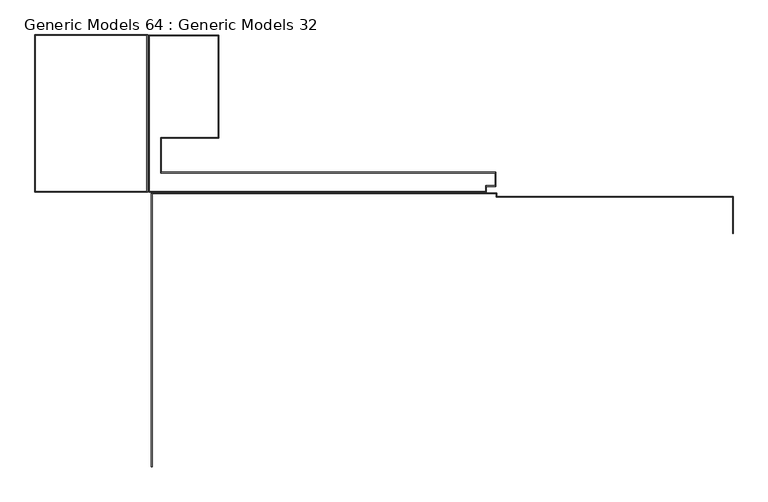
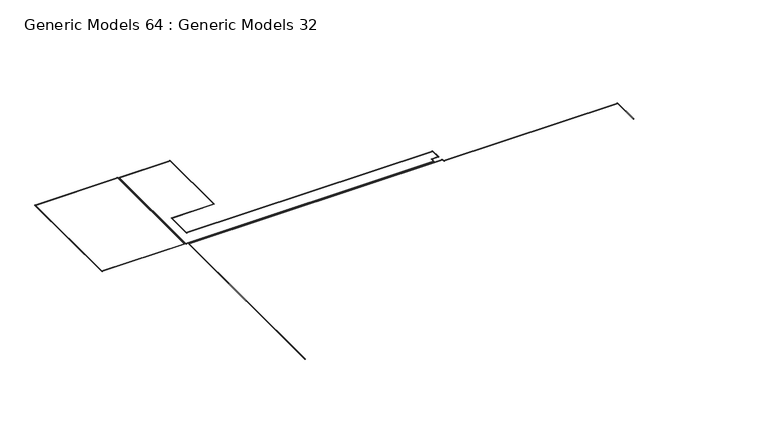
"""IFC4 building model written with IfcOpenShell, lengths in millimetres: proxy geometry, Generic Models 64 : Generic Models 32."""

from ifc_helpers import new_model, si_unit, frame, origin, place, context, project, spatial, circle_curve, ellipse_curve, source, transform, mapped, element, save
from ifc_brep_helpers import plane_surface, cylinder_surface, advanced_brep


def generic_models_64_generic_models_32_c3ba978d(model_context):
    return source(origin(), model_context, "Body", "AdvancedBrep", [
        advanced_brep(
        [(-152733.6902477, 36290.969902, 44270.0), (-152813.6902477, 36370.969902, 44270.0), (-152813.6902477, 12043.2777512, 44270.0), (-152733.6902477, 12123.2777512, 44270.0), (-135382.9372768, 12043.2777512, 44270.0), (-135462.9372768, 12123.2777512, 44270.0), (-135462.9372768, 36290.969902, 44270.0), (-135382.9372768, 36370.969902, 44270.0)],
        [
            (0, 1, ellipse_curve(frame((-152773.6902477, 36330.969902, 44270.0), z_axis=(-0.7071067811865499, -0.707106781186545, 0.0), x_axis=(-0.7071067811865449, 0.7071067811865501, 0.0)), 56.5685425, 40.0)),
            (1, 2),
            (2, 3, ellipse_curve(frame((-152773.6902477, 12083.2777512, 44270.0), z_axis=(-0.7071067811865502, 0.7071067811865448, 0.0), x_axis=(0.7071067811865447, 0.7071067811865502, 0.0)), 56.5685425, 40.0)),
            (3, 0),
            (1, 0, ellipse_curve(frame((-152773.6902477, 36330.969902, 44270.0), z_axis=(-0.7071067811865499, -0.707106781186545, 0.0), x_axis=(-0.7071067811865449, 0.7071067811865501, 0.0)), 56.5685425, 40.0)),
            (3, 2, ellipse_curve(frame((-152773.6902477, 12083.2777512, 44270.0), z_axis=(-0.7071067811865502, 0.7071067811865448, 0.0), x_axis=(0.7071067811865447, 0.7071067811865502, 0.0)), 56.5685425, 40.0)),
            (2, 4),
            (4, 5, ellipse_curve(frame((-135422.9372768, 12083.2777512, 44270.0), z_axis=(-0.7071067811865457, -0.7071067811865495, 0.0), x_axis=(-0.7071067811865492, 0.7071067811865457, 0.0)), 56.5685425, 40.0)),
            (5, 3),
            (5, 4, ellipse_curve(frame((-135422.9372768, 12083.2777512, 44270.0), z_axis=(-0.7071067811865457, -0.7071067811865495, 0.0), x_axis=(-0.7071067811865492, 0.7071067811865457, 0.0)), 56.5685425, 40.0)),
            (5, 6),
            (6, 7, ellipse_curve(frame((-135422.9372768, 36330.969902, 44270.0), z_axis=(0.7071067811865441, -0.7071067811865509, 0.0), x_axis=(-0.7071067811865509, -0.707106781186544, 0.0)), 56.5685425, 40.0)),
            (7, 4),
            (7, 6, ellipse_curve(frame((-135422.9372768, 36330.969902, 44270.0), z_axis=(0.7071067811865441, -0.7071067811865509, 0.0), x_axis=(-0.7071067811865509, -0.707106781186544, 0.0)), 56.5685425, 40.0)),
            (6, 0),
            (1, 7),
        ],
        [
            cylinder_surface(frame((-152773.6902477, 36405.969902, 44270.0), z_axis=(0.0, 1.0, 0.0), x_axis=(-1.0, 0.0, 0.0)), 40.0),
            cylinder_surface(frame((-152848.6902477, 12083.2777512, 44270.0), z_axis=(-1.0, 0.0, 0.0), x_axis=(0.0, -1.0, 0.0)), 40.0),
            cylinder_surface(frame((-135422.9372768, 12008.2777512, 44270.0), z_axis=(0.0, -1.0, 0.0), x_axis=(1.0, 0.0, 0.0)), 40.0),
            cylinder_surface(frame((-135347.9372768, 36330.969902, 44270.0), z_axis=(1.0, 0.0, 0.0), x_axis=(0.0, 1.0, 0.0)), 40.0),
        ],
        [
            (0, [[1, 2, 3, 4]]),
            (0, [[5, -4, 6, -2]]),
            (1, [[-3, 7, 8, 9]]),
            (1, [[-6, -9, 10, -7]]),
            (2, [[-10, 11, 12, 13]]),
            (2, [[-8, -13, 14, -11]]),
            (3, [[-12, 15, -5, 16]]),
            (3, [[-14, -16, -1, -15]]),
        ],
    ),
        advanced_brep(
        [(-135132.9372768, 36240.969902, 44270.0), (-135212.9372768, 36320.969902, 44270.0), (-135212.9372768, 12043.2777512, 44270.0), (-135132.9372768, 12123.2777512, 44270.0), (-82952.3577908, 12043.2777512, 44270.0), (-83032.3577908, 12123.2777512, 44270.0), (-83032.3577908, 12984.2777512, 44270.0), (-82952.3577908, 12904.2777512, 44270.0), (-81562.9372768, 12984.2777512, 44270.0), (-81482.9372768, 12904.2777512, 44270.0), (-81562.9372768, 14992.4703267, 44270.0), (-81482.9372768, 15072.4703267, 44270.0), (-133362.9372768, 14992.4703267, 44270.0), (-133282.9372768, 15072.4703267, 44270.0), (-133362.9372768, 20422.4925063, 44270.0), (-133282.9372768, 20342.4925063, 44270.0), (-124462.9372768, 20422.4925063, 44270.0), (-124382.9372768, 20342.4925063, 44270.0), (-124462.9372768, 36240.969902, 44270.0), (-124382.9372768, 36320.969902, 44270.0)],
        [
            (0, 1, ellipse_curve(frame((-135172.9372768, 36280.969902, 44270.0), z_axis=(-0.7071067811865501, -0.7071067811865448, 0.0), x_axis=(-0.7071067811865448, 0.7071067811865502, 0.0)), 56.5685425, 40.0)),
            (1, 2),
            (2, 3, ellipse_curve(frame((-135172.9372768, 12083.2777512, 44270.0), z_axis=(-0.70710678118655, 0.7071067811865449, 0.0), x_axis=(0.7071067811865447, 0.7071067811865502, 0.0)), 56.5685425, 40.0)),
            (3, 0),
            (1, 0, ellipse_curve(frame((-135172.9372768, 36280.969902, 44270.0), z_axis=(-0.7071067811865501, -0.7071067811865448, 0.0), x_axis=(-0.7071067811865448, 0.7071067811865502, 0.0)), 56.5685425, 40.0)),
            (3, 2, ellipse_curve(frame((-135172.9372768, 12083.2777512, 44270.0), z_axis=(-0.70710678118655, 0.7071067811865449, 0.0), x_axis=(0.7071067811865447, 0.7071067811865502, 0.0)), 56.5685425, 40.0)),
            (2, 4),
            (4, 5, ellipse_curve(frame((-82992.3577908, 12083.2777512, 44270.0), z_axis=(-0.7071067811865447, -0.7071067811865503, 0.0), x_axis=(-0.7071067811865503, 0.7071067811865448, 0.0)), 56.5685425, 40.0)),
            (5, 3),
            (5, 4, ellipse_curve(frame((-82992.3577908, 12083.2777512, 44270.0), z_axis=(-0.7071067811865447, -0.7071067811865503, 0.0), x_axis=(-0.7071067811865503, 0.7071067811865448, 0.0)), 56.5685425, 40.0)),
            (5, 6),
            (6, 7, ellipse_curve(frame((-82992.3577908, 12944.2777512, 44270.0), z_axis=(-0.7071067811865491, -0.707106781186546, 0.0), x_axis=(0.707106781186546, -0.7071067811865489, 0.0)), 56.5685425, 40.0)),
            (7, 4),
            (7, 6, ellipse_curve(frame((-82992.3577908, 12944.2777512, 44270.0), z_axis=(-0.7071067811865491, -0.707106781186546, 0.0), x_axis=(0.707106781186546, -0.7071067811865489, 0.0)), 56.5685425, 40.0)),
            (6, 8),
            (8, 9, ellipse_curve(frame((-81522.9372768, 12944.2777512, 44270.0), z_axis=(-0.7071067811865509, -0.7071067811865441, 0.0), x_axis=(-0.7071067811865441, 0.7071067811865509, 0.0)), 56.5685425, 40.0)),
            (9, 7),
            (9, 8, ellipse_curve(frame((-81522.9372768, 12944.2777512, 44270.0), z_axis=(-0.7071067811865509, -0.7071067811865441, 0.0), x_axis=(-0.7071067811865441, 0.7071067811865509, 0.0)), 56.5685425, 40.0)),
            (8, 10),
            (10, 11, ellipse_curve(frame((-81522.9372768, 15032.4703267, 44270.0), z_axis=(0.7071067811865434, -0.7071067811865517, 0.0), x_axis=(-0.7071067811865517, -0.7071067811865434, 0.0)), 56.5685425, 40.0)),
            (11, 9),
            (11, 10, ellipse_curve(frame((-81522.9372768, 15032.4703267, 44270.0), z_axis=(0.7071067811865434, -0.7071067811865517, 0.0), x_axis=(-0.7071067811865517, -0.7071067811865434, 0.0)), 56.5685425, 40.0)),
            (10, 12),
            (12, 13, ellipse_curve(frame((-133322.9372768, 15032.4703267, 44270.0), z_axis=(0.7071067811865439, -0.7071067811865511, 0.0), x_axis=(0.7071067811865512, 0.7071067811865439, 0.0)), 56.5685425, 40.0)),
            (13, 11),
            (13, 12, ellipse_curve(frame((-133322.9372768, 15032.4703267, 44270.0), z_axis=(0.7071067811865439, -0.7071067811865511, 0.0), x_axis=(0.7071067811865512, 0.7071067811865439, 0.0)), 56.5685425, 40.0)),
            (12, 14),
            (14, 15, ellipse_curve(frame((-133322.9372768, 20382.4925063, 44270.0), z_axis=(-0.7071067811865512, -0.7071067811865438, 0.0), x_axis=(0.7071067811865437, -0.7071067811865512, 0.0)), 56.5685425, 40.0)),
            (15, 13),
            (15, 14, ellipse_curve(frame((-133322.9372768, 20382.4925063, 44270.0), z_axis=(-0.7071067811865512, -0.7071067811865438, 0.0), x_axis=(0.7071067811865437, -0.7071067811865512, 0.0)), 56.5685425, 40.0)),
            (14, 16),
            (16, 17, ellipse_curve(frame((-124422.9372768, 20382.4925063, 44270.0), z_axis=(-0.7071067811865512, -0.7071067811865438, 0.0), x_axis=(-0.7071067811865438, 0.7071067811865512, 0.0)), 56.5685425, 40.0)),
            (17, 15),
            (17, 16, ellipse_curve(frame((-124422.9372768, 20382.4925063, 44270.0), z_axis=(-0.7071067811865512, -0.7071067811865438, 0.0), x_axis=(-0.7071067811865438, 0.7071067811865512, 0.0)), 56.5685425, 40.0)),
            (16, 18),
            (18, 19, ellipse_curve(frame((-124422.9372768, 36280.969902, 44270.0), z_axis=(0.707106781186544, -0.707106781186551, 0.0), x_axis=(-0.7071067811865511, -0.707106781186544, 0.0)), 56.5685425, 40.0)),
            (19, 17),
            (19, 18, ellipse_curve(frame((-124422.9372768, 36280.969902, 44270.0), z_axis=(0.707106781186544, -0.707106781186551, 0.0), x_axis=(-0.7071067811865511, -0.707106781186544, 0.0)), 56.5685425, 40.0)),
            (18, 0),
            (1, 19),
        ],
        [
            cylinder_surface(frame((-135172.9372768, 36355.969902, 44270.0), z_axis=(0.0, 1.0, 0.0), x_axis=(-1.0, 0.0, 0.0)), 40.0),
            cylinder_surface(frame((-135247.9372768, 12083.2777512, 44270.0), z_axis=(-1.0, 0.0, 0.0), x_axis=(0.0, -1.0, 0.0)), 40.0),
            cylinder_surface(frame((-82992.3577908, 12008.2777512, 44270.0), z_axis=(0.0, -1.0, 0.0), x_axis=(1.0, 0.0, 0.0)), 40.0),
            cylinder_surface(frame((-82917.3577908, 12944.2777512, 44270.0), z_axis=(-1.0, 0.0, 0.0), x_axis=(0.0, -1.0, 0.0)), 40.0),
            cylinder_surface(frame((-81522.9372768, 12869.2777512, 44270.0), z_axis=(0.0, -1.0, 0.0), x_axis=(1.0, 0.0, 0.0)), 40.0),
            cylinder_surface(frame((-81447.9372768, 15032.4703267, 44270.0), z_axis=(1.0, 0.0, 0.0), x_axis=(0.0, 1.0, 0.0)), 40.0),
            cylinder_surface(frame((-133322.9372768, 15107.4703267, 44270.0), z_axis=(0.0, -1.0, 0.0), x_axis=(1.0, 0.0, 0.0)), 40.0),
            cylinder_surface(frame((-133247.9372768, 20382.4925063, 44270.0), z_axis=(-1.0, 0.0, 0.0), x_axis=(0.0, -1.0, 0.0)), 40.0),
            cylinder_surface(frame((-124422.9372768, 20307.4925063, 44270.0), z_axis=(0.0, -1.0, 0.0), x_axis=(1.0, 0.0, 0.0)), 40.0),
            cylinder_surface(frame((-124347.9372768, 36280.969902, 44270.0), z_axis=(1.0, 0.0, 0.0), x_axis=(0.0, 1.0, 0.0)), 40.0),
        ],
        [
            (0, [[1, 2, 3, 4]]),
            (0, [[5, -4, 6, -2]]),
            (1, [[-3, 7, 8, 9]]),
            (1, [[-6, -9, 10, -7]]),
            (2, [[-10, 11, 12, 13]]),
            (2, [[-8, -13, 14, -11]]),
            (3, [[-12, 15, 16, 17]]),
            (3, [[-14, -17, 18, -15]]),
            (4, [[-16, 19, 20, 21]]),
            (4, [[-18, -21, 22, -19]]),
            (5, [[-20, 23, 24, 25]]),
            (5, [[-22, -25, 26, -23]]),
            (6, [[-24, 27, 28, 29]]),
            (6, [[-26, -29, 30, -27]]),
            (7, [[-28, 31, 32, 33]]),
            (7, [[-30, -33, 34, -31]]),
            (8, [[-32, 35, 36, 37]]),
            (8, [[-34, -37, 38, -35]]),
            (9, [[-36, 39, -5, 40]]),
            (9, [[-38, -40, -1, -39]]),
        ],
    ),
        advanced_brep(
        [(-134685.5917799, -30556.740321, 44270.0), (-134765.5917799, -30556.740321, 44270.0), (-44814.0423298, 5588.2777512, 44270.0), (-44734.0423298, 5588.2777512, 44270.0), (-134685.5917799, 11793.2777512, 44270.0), (-134765.5917799, 11873.2777512, 44270.0), (-81415.5917799, 11793.2777512, 44270.0), (-81335.5917799, 11873.2777512, 44270.0), (-81415.5917799, 11273.8777512, 44270.0), (-81335.5917799, 11353.8777512, 44270.0), (-44814.0423298, 11273.8777512, 44270.0), (-44734.0423298, 11353.8777512, 44270.0)],
        [
            (0, 1, circle_curve(frame((-134725.5917799, -30556.740321, 44270.0), z_axis=(0.0, -1.0, 0.0), x_axis=(-1.0, 0.0, 0.0)), 40.0)),
            (1, 0, circle_curve(frame((-134725.5917799, -30556.740321, 44270.0), z_axis=(0.0, -1.0, 0.0), x_axis=(-1.0, 0.0, 0.0)), 40.0)),
            (2, 3, circle_curve(frame((-44774.0423298, 5588.2777512, 44270.0), z_axis=(0.0, -1.0, 0.0), x_axis=(1.0, 0.0, 0.0)), 40.0)),
            (3, 2, circle_curve(frame((-44774.0423298, 5588.2777512, 44270.0), z_axis=(0.0, -1.0, 0.0), x_axis=(1.0, 0.0, 0.0)), 40.0)),
            (0, 4),
            (4, 5, ellipse_curve(frame((-134725.5917799, 11833.2777512, 44270.0), z_axis=(-0.7071067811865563, -0.7071067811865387, 0.0), x_axis=(0.7071067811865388, -0.7071067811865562, 0.0)), 56.5685425, 40.0)),
            (5, 1),
            (5, 4, ellipse_curve(frame((-134725.5917799, 11833.2777512, 44270.0), z_axis=(-0.7071067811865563, -0.7071067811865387, 0.0), x_axis=(0.7071067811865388, -0.7071067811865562, 0.0)), 56.5685425, 40.0)),
            (4, 6),
            (6, 7, ellipse_curve(frame((-81375.5917799, 11833.2777512, 44270.0), z_axis=(-0.7071067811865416, 0.7071067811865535, 0.0), x_axis=(-0.7071067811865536, -0.7071067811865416, 0.0)), 56.5685425, 40.0)),
            (7, 5),
            (7, 6, ellipse_curve(frame((-81375.5917799, 11833.2777512, 44270.0), z_axis=(-0.7071067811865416, 0.7071067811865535, 0.0), x_axis=(-0.7071067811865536, -0.7071067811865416, 0.0)), 56.5685425, 40.0)),
            (6, 8),
            (8, 9, ellipse_curve(frame((-81375.5917799, 11313.8777512, 44270.0), z_axis=(-0.7071067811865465, 0.7071067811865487, 0.0), x_axis=(0.7071067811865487, 0.7071067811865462, 0.0)), 56.5685425, 40.0)),
            (9, 7),
            (9, 8, ellipse_curve(frame((-81375.5917799, 11313.8777512, 44270.0), z_axis=(-0.7071067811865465, 0.7071067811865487, 0.0), x_axis=(0.7071067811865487, 0.7071067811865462, 0.0)), 56.5685425, 40.0)),
            (8, 10),
            (10, 11, ellipse_curve(frame((-44774.0423298, 11313.8777512, 44270.0), z_axis=(-0.7071067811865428, 0.7071067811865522, 0.0), x_axis=(-0.7071067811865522, -0.7071067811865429, 0.0)), 56.5685425, 40.0)),
            (11, 9),
            (11, 10, ellipse_curve(frame((-44774.0423298, 11313.8777512, 44270.0), z_axis=(-0.7071067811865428, 0.7071067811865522, 0.0), x_axis=(-0.7071067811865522, -0.7071067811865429, 0.0)), 56.5685425, 40.0)),
            (10, 2),
            (3, 11),
        ],
        [
            plane_surface(frame((-134800.5917799, -30556.740321, 44170.0), z_axis=(0.0, -1.0, 0.0), x_axis=(0.0, 0.0, 1.0))),
            plane_surface(frame((-44699.0423298, 5588.2777512, 44170.0), z_axis=(0.0, -1.0, 0.0), x_axis=(0.0, 0.0, 1.0))),
            cylinder_surface(frame((-134725.5917799, -30556.740321, 44270.0), z_axis=(0.0, -1.0, 0.0), x_axis=(-1.0, 0.0, 0.0)), 40.0),
            cylinder_surface(frame((-134800.5917799, 11833.2777512, 44270.0), z_axis=(-1.0, 0.0, 0.0), x_axis=(0.0, 1.0, 0.0)), 40.0),
            cylinder_surface(frame((-81375.5917799, 11908.2777512, 44270.0), z_axis=(0.0, 1.0, 0.0), x_axis=(1.0, 0.0, 0.0)), 40.0),
            cylinder_surface(frame((-81300.5917799, 11313.8777512, 44270.0), z_axis=(-1.0, 0.0, 0.0), x_axis=(0.0, 1.0, 0.0)), 40.0),
            cylinder_surface(frame((-44774.0423298, 11388.8777512, 44270.0), z_axis=(0.0, 1.0, 0.0), x_axis=(1.0, 0.0, 0.0)), 40.0),
        ],
        [
            (0, [[1, 2]]),
            (1, [[3, 4]]),
            (2, [[-1, 5, 6, 7]]),
            (2, [[-2, -7, 8, -5]]),
            (3, [[-6, 9, 10, 11]]),
            (3, [[-8, -11, 12, -9]]),
            (4, [[-10, 13, 14, 15]]),
            (4, [[-12, -15, 16, -13]]),
            (5, [[-14, 17, 18, 19]]),
            (5, [[-16, -19, 20, -17]]),
            (6, [[-18, 21, -4, 22]]),
            (6, [[-20, -22, -3, -21]]),
        ],
    ),
    ])


if __name__ == "__main__":
    model = new_model("IFC4")
    model_context = context("Model", 3, world=origin())
    ifc_project = project(units=[si_unit("LENGTHUNIT", "METRE", prefix="MILLI")], contexts=[model_context])
    site = spatial("IfcSite", under=ifc_project)
    building = spatial("IfcBuilding", under=site)
    placement = place(None, origin())
    generic_models_64_generic_models_32_shape = generic_models_64_generic_models_32_c3ba978d(model_context)
    element("IfcBuildingElementProxy", 1, Name="Generic Models 64 : Generic Models 32", ObjectType="Generic Models 64 : Generic Models 32", at=placement, inside=building, context=model_context, shape_type="MappedRepresentation", body=[
        mapped(generic_models_64_generic_models_32_shape, transform((0.0, 0.0, 0.0), x_axis=(1.0, 0.0, 0.0), y_axis=(0.0, 1.0, 0.0), z_axis=(0.0, 0.0, 1.0))),
    ])
    save(model, "model.ifc")
